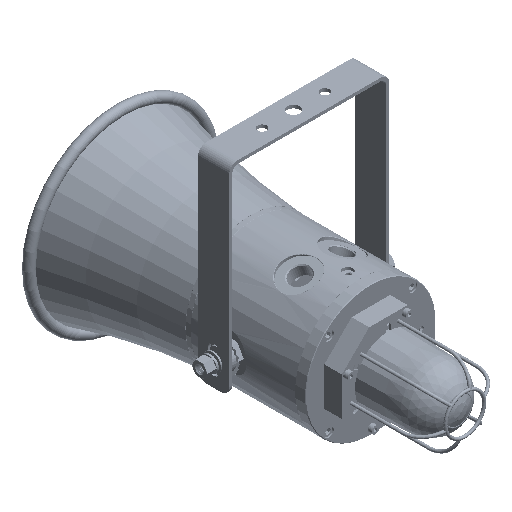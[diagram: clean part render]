
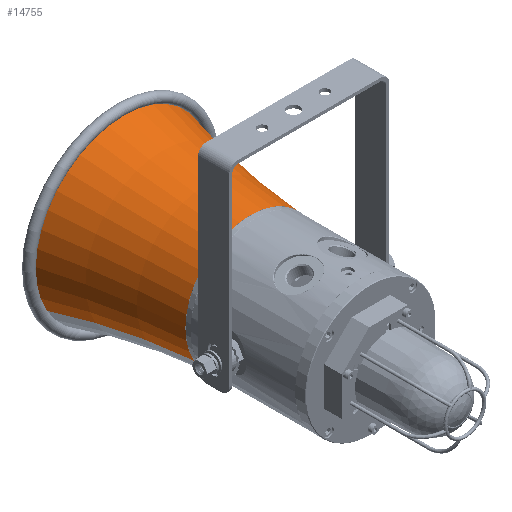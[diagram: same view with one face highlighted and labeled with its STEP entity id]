
A CAD part, isometric view. The second image highlights one B-rep face of the part: STEP entity #14755.
In plain terms, the highlighted toroidal (fillet/blend) face has major radius 649.292 mm and minor radius 588 mm.
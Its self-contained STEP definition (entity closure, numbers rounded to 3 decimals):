
#14320=CARTESIAN_POINT('',(0.,649.292,37.675));
#14321=DIRECTION('',(-1.,0.,0.));
#14322=DIRECTION('',(0.,-0.961,-0.277));
#14323=AXIS2_PLACEMENT_3D('',#14320,#14321,#14322);
#14325=CARTESIAN_POINT('',(0.,0.,-125.2));
#14326=DIRECTION('',(0.,0.,-1.));
#14327=DIRECTION('',(0.,1.,0.));
#14328=AXIS2_PLACEMENT_3D('',#14325,#14326,#14327);
#14330=CARTESIAN_POINT('',(0.,-649.292,
37.675));
#14331=DIRECTION('',(1.,0.,0.));
#14332=DIRECTION('',(0.,0.961,-0.277));
#14333=AXIS2_PLACEMENT_3D('',#14330,#14331,#14332);
#14345=CARTESIAN_POINT('',(0.,0.,0.));
#14346=DIRECTION('',(0.,0.,-1.));
#14347=DIRECTION('',(0.,1.,0.));
#14348=AXIS2_PLACEMENT_3D('',#14345,#14346,#14347);
#14653=CARTESIAN_POINT('',(0.,84.3,-125.2));
#14655=VERTEX_POINT('',#14653);
#14656=CARTESIAN_POINT('',(0.,62.5,0.));
#14657=VERTEX_POINT('',#14656);
#14659=CARTESIAN_POINT('',(0.,-84.3,-125.2));
#14661=VERTEX_POINT('',#14659);
#14662=CARTESIAN_POINT('',(0.,-62.5,0.));
#14663=VERTEX_POINT('',#14662);
#14740=CARTESIAN_POINT('',(0.,0.,37.675));
#14741=DIRECTION('',(0.,0.,1.));
#14742=DIRECTION('',(0.,1.,0.));
#14743=AXIS2_PLACEMENT_3D('',#14740,#14741,#14742);
#14744=TOROIDAL_SURFACE('',#14743,649.292,588.);
#14746=ORIENTED_EDGE('',*,*,#14745,.F.);
#14748=ORIENTED_EDGE('',*,*,#14747,.T.);
#14750=ORIENTED_EDGE('',*,*,#14749,.T.);
#14752=ORIENTED_EDGE('',*,*,#14751,.F.);
#14753=EDGE_LOOP('',(#14746,#14748,#14750,#14752));
#14754=FACE_OUTER_BOUND('',#14753,.F.);
#14755=ADVANCED_FACE('',(#14754),#14744,.F.);
#14324=CIRCLE('',#14323,588.);
#14329=CIRCLE('',#14328,84.3);
#14334=CIRCLE('',#14333,588.);
#14349=CIRCLE('',#14348,62.5);
#14745=EDGE_CURVE('',#14655,#14657,#14324,.T.);
#14747=EDGE_CURVE('',#14655,#14661,#14329,.T.);
#14749=EDGE_CURVE('',#14661,#14663,#14334,.T.);
#14751=EDGE_CURVE('',#14657,#14663,#14349,.T.);
